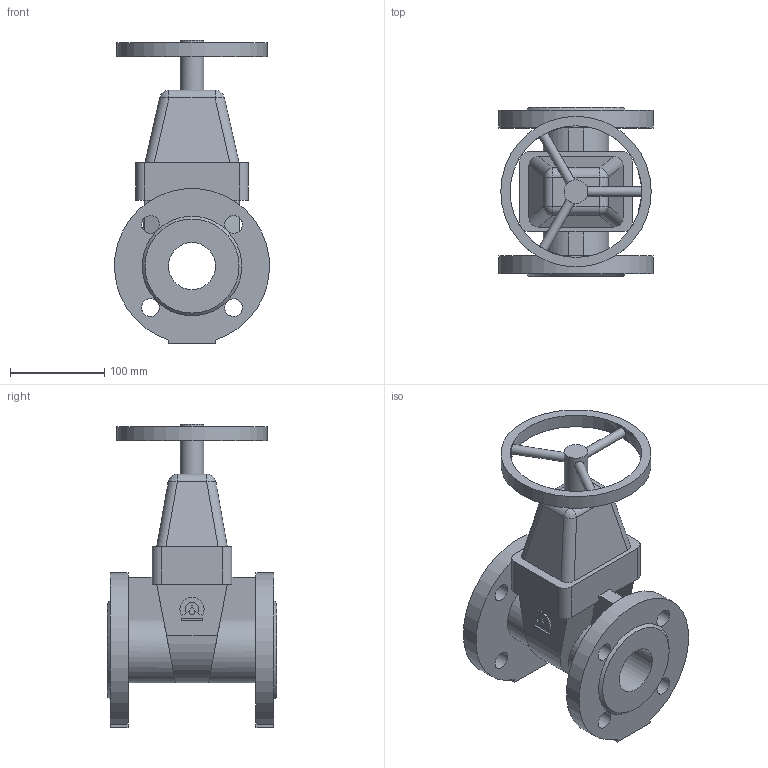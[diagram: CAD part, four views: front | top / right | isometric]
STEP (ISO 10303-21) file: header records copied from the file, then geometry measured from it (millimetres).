
FILE_DESCRIPTION(('STEP AP203'), '1');
FILE_NAME('Çàäâèæêà 47GV DN50 PN10_PN16_L180 ñ ìàõîâèêîì', '', ('UNSPECIFIED'), ('UNSPECIFIED'), 'ASCON STEP Converter 1.6', 'ASCON Math Kernel', '');
FILE_SCHEMA(('CONFIG_CONTROL_DESIGN'));
Length unit declared in the file: millimetre
Bounding box: 164.7 x 180 x 322.5 mm (x, y, z)
Volume: 2288511.2 mm3; surface area: 252272.2 mm2
Topology: 1 solids, 1 shells, 94 faces, 249 edges, 156 vertices
Faces by surface type: plane 49, cylinder 39, bspline 4, cone 2
Full cylindrical faces by diameter (mm): 10 x3, 19 x8, 25 x1, 50 x1, 140 x1, 160 x1
Entity records: 4504 total; most frequent: CARTESIAN_POINT 1517, DIRECTION 444, ORIENTED_EDGE 424, EDGE_CURVE 212, AXIS2_PLACEMENT_3D 159, VERTEX_POINT 148, EDGE_LOOP 146, LINE 126
